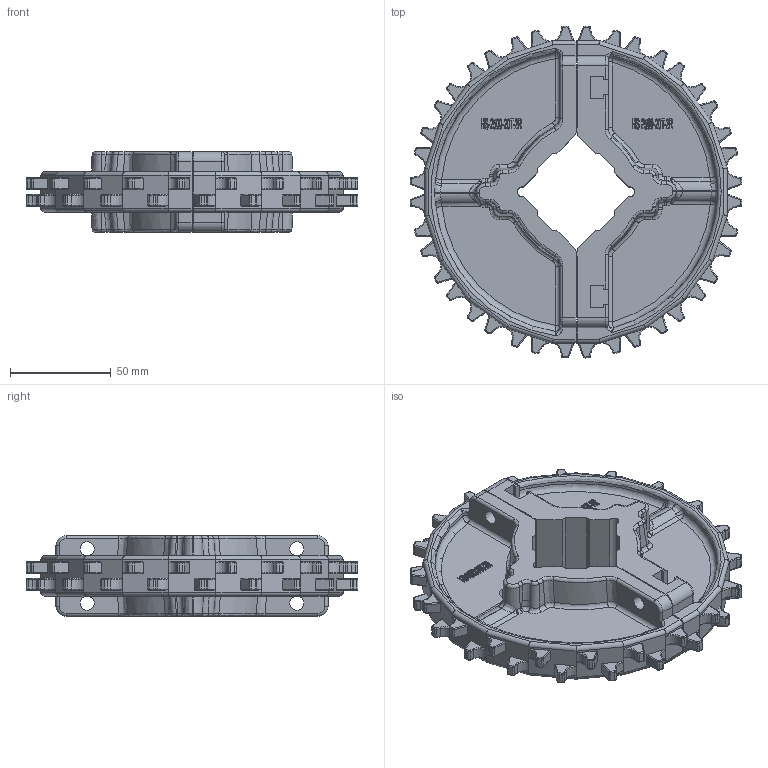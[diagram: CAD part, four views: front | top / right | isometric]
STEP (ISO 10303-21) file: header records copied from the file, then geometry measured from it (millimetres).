
FILE_DESCRIPTION(/* description */ (''),/* implementation_level */ '2;1');
FILE_NAME(/* name */ 'HS-2500A-20T-DK.stp',/* time_stamp */ '2025-09-11T17:23:29+08:00',/* author */ (''),/* organization */ (''),/* preprocessor_version */ 'ST-DEVELOPER v15',/* originating_system */ 'SIEMENS PLM Software NX 8.5',/* authorisation */ '');
FILE_SCHEMA (('AP203_CONFIGURATION_CONTROLLED_3D_DESIGN_OF_MECHANICAL_PARTS_AND_ASSEMBLIES_MIM_LF { 1 0 10303 403 2 1 2}'));
Products named in the file (1): Admi2A205363714b
Bounding box: 164.75 x 164.75 x 40 mm (x, y, z)
Volume: 286943 mm3; surface area: 76065.3 mm2
Topology: 2 solids, 2 shells, 1684 faces, 4180 edges, 2516 vertices
Faces by surface type: plane 464, cylinder 450, bspline 444, torus 196, extrusion 62, revolution 40, sphere 16, cone 12
Full cylindrical faces by diameter (mm): 7 x8
Entity records: 63086 total; most frequent: CARTESIAN_POINT 26188, ORIENTED_EDGE 8296, DIRECTION 6868, EDGE_CURVE 4148, AXIS2_PLACEMENT_3D 2595, VERTEX_POINT 2516, EDGE_LOOP 1748, ADVANCED_FACE 1684
